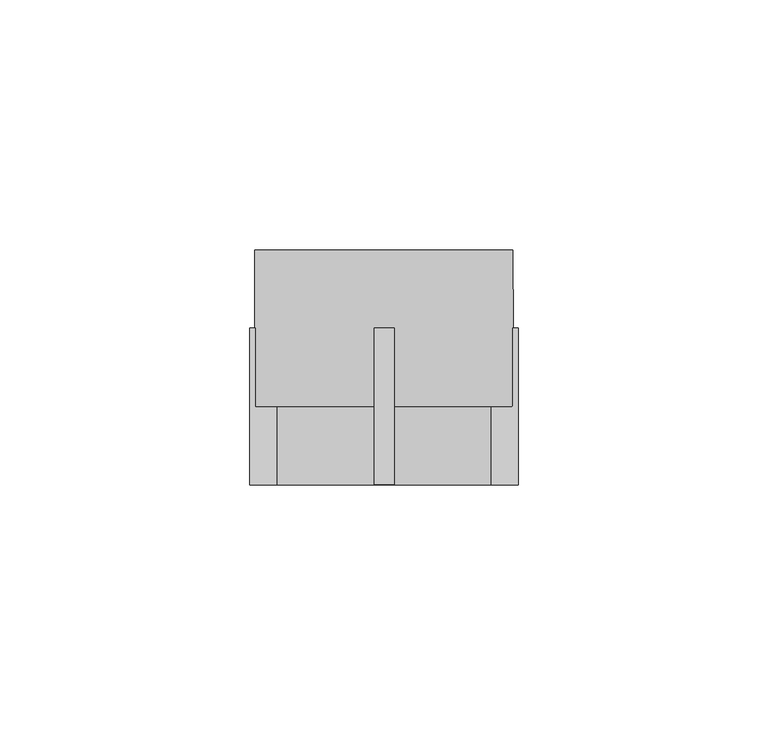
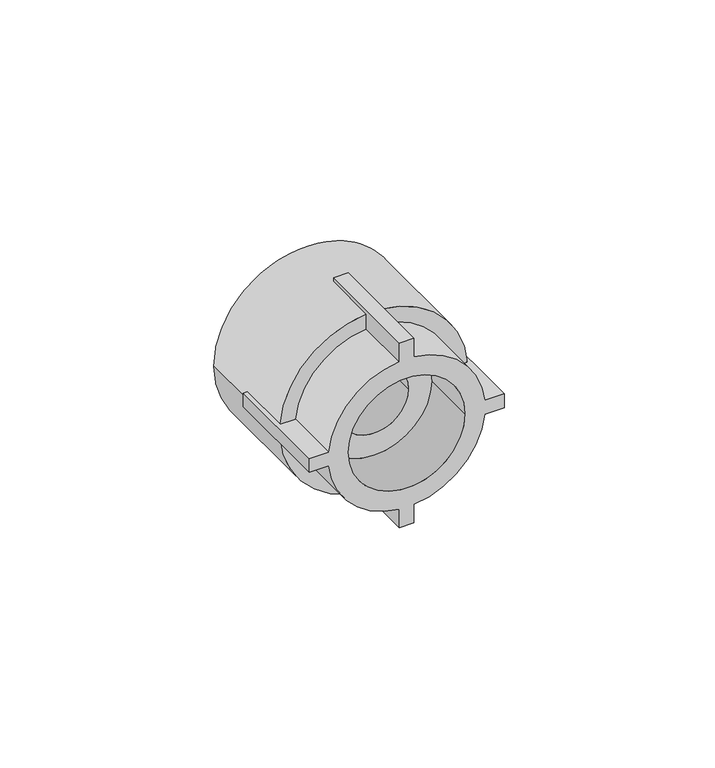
"""IFC4 building model written with IfcOpenShell, lengths in millimetres: pipe fitting geometry, EGB_VASEN_ PPR_Entronque rosca hembra WXR102 : Entronque rosca hembra WXR102."""

from ifc_helpers import new_model, si_unit, point, frame, origin, origin_2d, place, context, project, spatial, polyline, circle_curve, trimmed, segment, composite_curve, outline, extrude, source, transform, mapped, element, save
from ifc_brep_helpers import plane_surface, cylinder_surface, revolved_surface, advanced_brep


def pipe_fitting_ec8d1571(model_context):
    return source(origin(), model_context, "Body", "SolidModel", [
        advanced_brep(
        [(2.0, -15.6666667, 26.8), (-2.0, -15.6666667, 26.8), (-2.0, -15.6666667, 21.4067746), (-21.4067746, -15.6666667, 2.0), (-26.8, -15.6666667, 2.0), (-26.8, -15.6666667, -2.0), (-21.4067746, -15.6666667, -2.0), (-2.0, -15.6666667, -21.4067746), (-2.0, -15.6666667, -26.8), (2.0, -15.6666667, -26.8), (2.0, -15.6666667, -21.4067746), (21.4067746, -15.6666667, -2.0), (26.8, -15.6666667, -2.0), (26.8, -15.6666667, 2.0), (21.4067746, -15.6666667, 2.0), (2.0, -15.6666667, 21.4067746), (-16.0, -15.6666667, 0.0), (16.0, -15.6666667, 0.0), (-2.0, 15.6666667, 26.8), (2.0, 15.6666667, 26.8), (2.0, 15.6666667, 25.7223638), (-2.0, 15.6666667, 25.7223638), (2.0, 15.6666667, -26.8), (-2.0, 15.6666667, -26.8), (-2.0, 15.6666667, -25.7223638), (2.0, 15.6666667, -25.7223638), (26.8, 15.6666667, 2.0), (26.8, 15.6666667, -2.0), (25.7223638, 15.6666667, -2.0), (25.8, 15.6666667, 0.0), (25.7223638, 15.6666667, 2.0), (-26.8, 15.6666667, -2.0), (-26.8, 15.6666667, 2.0), (-25.7223638, 15.6666667, 2.0), (-25.8, 15.6666667, 0.0), (-25.7223638, 15.6666667, -2.0), (2.0, 0.0, 21.4067746), (2.0, 0.0, 25.7223638), (-2.0, 0.0, 25.7223638), (-2.0, 0.0, 21.4067746), (2.0, 0.0, -25.7223638), (2.0, 0.0, -21.4067746), (-2.0, 0.0, -21.4067746), (-2.0, 0.0, -25.7223638), (21.4067746, 0.0, -2.0), (25.7223638, 0.0, -2.0), (25.7223638, 0.0, 2.0), (21.4067746, 0.0, 2.0), (-25.7223638, 0.0, -2.0), (-21.4067746, 0.0, -2.0), (-21.4067746, 0.0, 2.0), (-25.7223638, 0.0, 2.0), (-16.0, 0.0, 0.0), (16.0, 0.0, 0.0), (-9.525, 0.0, 0.0), (9.525, 0.0, 0.0), (-25.8, 31.3333333, 0.0), (25.8, 31.3333333, 0.0), (-9.525, 31.3333333, 0.0), (9.525, 31.3333333, 0.0)],
        [
            (0, 1),
            (1, 2),
            (2, 3, circle_curve(frame((0.0, -15.6666667, 0.0), z_axis=(0.0, -1.0, 0.0), x_axis=(1.0, 0.0, 0.0)), 21.5)),
            (3, 4),
            (4, 5),
            (5, 6),
            (6, 7, circle_curve(frame((0.0, -15.6666667, 0.0), z_axis=(0.0, -1.0, 0.0), x_axis=(1.0, 0.0, 0.0)), 21.5)),
            (7, 8),
            (8, 9),
            (9, 10),
            (10, 11, circle_curve(frame((0.0, -15.6666667, 0.0), z_axis=(0.0, -1.0, 0.0), x_axis=(1.0, 0.0, 0.0)), 21.5)),
            (11, 12),
            (12, 13),
            (13, 14),
            (14, 15, circle_curve(frame((0.0, -15.6666667, 0.0), z_axis=(0.0, -1.0, 0.0), x_axis=(1.0, 0.0, 0.0)), 21.5)),
            (15, 0),
            (16, 17, circle_curve(frame((0.0, -15.6666667, 0.0), z_axis=(0.0, 1.0, 0.0), x_axis=(1.0, 0.0, 0.0)), 16.0)),
            (17, 16, circle_curve(frame((0.0, -15.6666667, 0.0), z_axis=(0.0, 1.0, 0.0), x_axis=(1.0, 0.0, 0.0)), 16.0)),
            (18, 19),
            (19, 20),
            (20, 21, circle_curve(frame((0.0, 15.6666667, 0.0), z_axis=(0.0, -1.0, 0.0), x_axis=(1.0, 0.0, 0.0)), 25.8)),
            (21, 18),
            (22, 23),
            (23, 24),
            (24, 25, circle_curve(frame((0.0, 15.6666667, 0.0), z_axis=(0.0, -1.0, 0.0), x_axis=(1.0, 0.0, 0.0)), 25.8)),
            (25, 22),
            (26, 27),
            (27, 28),
            (28, 29, circle_curve(frame((0.0, 15.6666667, 0.0), z_axis=(0.0, -1.0, 0.0), x_axis=(1.0, 0.0, 0.0)), 25.8)),
            (29, 30, circle_curve(frame((0.0, 15.6666667, 0.0), z_axis=(0.0, -1.0, 0.0), x_axis=(1.0, 0.0, 0.0)), 25.8)),
            (30, 26),
            (31, 32),
            (32, 33),
            (33, 34, circle_curve(frame((0.0, 15.6666667, 0.0), z_axis=(0.0, -1.0, 0.0), x_axis=(1.0, 0.0, 0.0)), 25.8)),
            (34, 35, circle_curve(frame((0.0, 15.6666667, 0.0), z_axis=(0.0, -1.0, 0.0), x_axis=(1.0, 0.0, 0.0)), 25.8)),
            (35, 31),
            (19, 0),
            (15, 36),
            (36, 37),
            (37, 20),
            (18, 1),
            (21, 38),
            (38, 39),
            (39, 2),
            (8, 23),
            (22, 9),
            (25, 40),
            (40, 41),
            (41, 10),
            (7, 42),
            (42, 43),
            (43, 24),
            (27, 12),
            (11, 44),
            (44, 45),
            (45, 28),
            (26, 13),
            (30, 46),
            (46, 47),
            (47, 14),
            (5, 31),
            (35, 48),
            (48, 49),
            (49, 6),
            (32, 4),
            (3, 50),
            (50, 51),
            (51, 33),
            (49, 42, circle_curve(frame((0.0, 0.0, 0.0), z_axis=(0.0, -1.0, 0.0), x_axis=(1.0, 0.0, 0.0)), 21.5)),
            (41, 44, circle_curve(frame((0.0, 0.0, 0.0), z_axis=(0.0, -1.0, 0.0), x_axis=(1.0, 0.0, 0.0)), 21.5)),
            (39, 50, circle_curve(frame((0.0, 0.0, 0.0), z_axis=(0.0, -1.0, 0.0), x_axis=(1.0, 0.0, 0.0)), 21.5)),
            (47, 36, circle_curve(frame((0.0, 0.0, 0.0), z_axis=(0.0, -1.0, 0.0), x_axis=(1.0, 0.0, 0.0)), 21.5)),
            (16, 52),
            (52, 53, circle_curve(frame((0.0, 0.0, 0.0), z_axis=(0.0, 1.0, 0.0), x_axis=(1.0, 0.0, 0.0)), 16.0)),
            (53, 17),
            (53, 52, circle_curve(frame((0.0, 0.0, 0.0), z_axis=(0.0, 1.0, 0.0), x_axis=(1.0, 0.0, 0.0)), 16.0)),
            (54, 55, circle_curve(frame((0.0, 0.0, 0.0), z_axis=(0.0, 1.0, 0.0), x_axis=(1.0, 0.0, 0.0)), 9.525)),
            (55, 54, circle_curve(frame((0.0, 0.0, 0.0), z_axis=(0.0, 1.0, 0.0), x_axis=(1.0, 0.0, 0.0)), 9.525)),
            (40, 45, circle_curve(frame((0.0, 0.0, 0.0), z_axis=(0.0, -1.0, 0.0), x_axis=(1.0, 0.0, 0.0)), 25.8)),
            (48, 43, circle_curve(frame((0.0, 0.0, 0.0), z_axis=(0.0, -1.0, 0.0), x_axis=(1.0, 0.0, 0.0)), 25.8)),
            (46, 37, circle_curve(frame((0.0, 0.0, 0.0), z_axis=(0.0, -1.0, 0.0), x_axis=(1.0, 0.0, 0.0)), 25.8)),
            (38, 51, circle_curve(frame((0.0, 0.0, 0.0), z_axis=(0.0, -1.0, 0.0), x_axis=(1.0, 0.0, 0.0)), 25.8)),
            (56, 57, circle_curve(frame((0.0, 31.3333333, 0.0), z_axis=(0.0, 1.0, 0.0), x_axis=(1.0, 0.0, 0.0)), 25.8)),
            (57, 56, circle_curve(frame((0.0, 31.3333333, 0.0), z_axis=(0.0, 1.0, 0.0), x_axis=(1.0, 0.0, 0.0)), 25.8)),
            (58, 59, circle_curve(frame((0.0, 31.3333333, 0.0), z_axis=(0.0, -1.0, 0.0), x_axis=(1.0, 0.0, 0.0)), 9.525)),
            (59, 58, circle_curve(frame((0.0, 31.3333333, 0.0), z_axis=(0.0, -1.0, 0.0), x_axis=(1.0, 0.0, 0.0)), 9.525)),
            (57, 29),
            (34, 56),
            (54, 58),
            (59, 55),
        ],
        [
            plane_surface(frame((0.0, -15.6666667, 0.0), z_axis=(0.0, -1.0, 0.0), x_axis=(0.0, 0.0, 1.0))),
            plane_surface(frame((0.0, 15.6666667, 0.0), z_axis=(0.0, 1.0, 0.0), x_axis=(0.0, 0.0, 1.0))),
            plane_surface(frame((2.0, -15.6666667, 20.5), z_axis=(1.0, 0.0, 0.0), x_axis=(0.0, 1.0, 0.0))),
            plane_surface(frame((2.0, -15.6666667, 26.8), z_axis=(0.0, 0.0, 1.0), x_axis=(0.0, 1.0, 0.0))),
            plane_surface(frame((-2.0, -15.6666667, 26.8), z_axis=(-1.0, 0.0, 0.0), x_axis=(0.0, 1.0, 0.0))),
            plane_surface(frame((-2.0, -15.6666667, -26.8), z_axis=(0.0, 0.0, -1.0), x_axis=(0.0, 1.0, 0.0))),
            plane_surface(frame((2.0, -15.6666667, -26.8), z_axis=(1.0, 0.0, 0.0), x_axis=(0.0, 1.0, 0.0))),
            plane_surface(frame((-2.0, -15.6666667, -20.5), z_axis=(-1.0, 0.0, 0.0), x_axis=(0.0, 1.0, 0.0))),
            plane_surface(frame((20.5, -15.6666667, -2.0), z_axis=(0.0, 0.0, -1.0), x_axis=(0.0, 1.0, 0.0))),
            plane_surface(frame((26.8, -15.6666667, -2.0), z_axis=(1.0, 0.0, 0.0), x_axis=(0.0, 1.0, 0.0))),
            plane_surface(frame((26.8, -15.6666667, 2.0), z_axis=(0.0, 0.0, 1.0), x_axis=(0.0, 1.0, 0.0))),
            plane_surface(frame((-26.8, -15.6666667, -2.0), z_axis=(0.0, 0.0, -1.0), x_axis=(0.0, 1.0, 0.0))),
            plane_surface(frame((-20.5, -15.6666667, 2.0), z_axis=(0.0, 0.0, 1.0), x_axis=(0.0, 1.0, 0.0))),
            plane_surface(frame((-26.8, -15.6666667, 2.0), z_axis=(-1.0, 0.0, 0.0), x_axis=(0.0, 1.0, 0.0))),
            cylinder_surface(frame((0.0, 0.0, 0.0), z_axis=(0.0, -1.0, 0.0), x_axis=(1.0, 0.0, 0.0)), 21.5),
            revolved_surface(polyline([(16.0, 0.0, 0.0), (16.0, -15.6666667, 0.0)]), (0.0, 0.0, 0.0), (0.0, 1.0, 0.0)),
            plane_surface(frame((25.8, 0.0, 0.0), z_axis=(0.0, -1.0, 0.0), x_axis=(0.0, 0.0, 1.0))),
            plane_surface(frame((25.8, 31.3333333, 0.0), z_axis=(0.0, 1.0, 0.0), x_axis=(0.0, 0.0, -1.0))),
            cylinder_surface(frame((0.0, 31.3333333, 0.0), z_axis=(0.0, -1.0, 0.0), x_axis=(1.0, 0.0, 0.0)), 25.8),
            revolved_surface(polyline([(9.525, 31.3333333, 0.0), (9.525, 0.0, 0.0)]), (0.0, 0.0, 0.0), (0.0, 1.0, 0.0)),
        ],
        [
            (0, [[1, 2, 3, 4, 5, 6, 7, 8, 9, 10, 11, 12, 13, 14, 15, 16], [17, 18]]),
            (1, [[19, 20, 21, 22]]),
            (1, [[23, 24, 25, 26]]),
            (1, [[27, 28, 29, 30, 31]]),
            (1, [[32, 33, 34, 35, 36]]),
            (2, [[37, -16, 38, 39, 40, -20]]),
            (3, [[-1, -37, -19, 41]]),
            (4, [[-41, -22, 42, 43, 44, -2]]),
            (5, [[-9, 45, -23, 46]]),
            (6, [[-46, -26, 47, 48, 49, -10]]),
            (7, [[-45, -8, 50, 51, 52, -24]]),
            (8, [[53, -12, 54, 55, 56, -28]]),
            (9, [[-13, -53, -27, 57]]),
            (10, [[-57, -31, 58, 59, 60, -14]]),
            (11, [[61, -36, 62, 63, 64, -6]]),
            (12, [[65, -4, 66, 67, 68, -33]]),
            (13, [[-5, -65, -32, -61]]),
            (14, [[-7, -64, 69, -50]]),
            (14, [[-11, -49, 70, -54]]),
            (14, [[-3, -44, 71, -66]]),
            (14, [[-15, -60, 72, -38]]),
            (15, [[-17, 73, 74, 75]]),
            (15, [[-18, -75, 76, -73]]),
            (16, [[-74, -76], [77, 78]]),
            (16, [[79, -55, -70, -48]]),
            (16, [[80, -51, -69, -63]]),
            (16, [[81, -39, -72, -59]]),
            (16, [[82, -67, -71, -43]]),
            (17, [[83, 84], [85, 86]]),
            (18, [[-84, 87, -29, -56, -79, -47, -25, -52, -80, -62, -35, 88]]),
            (18, [[-83, -88, -34, -68, -82, -42, -21, -40, -81, -58, -30, -87]]),
            (19, [[-77, 89, -86, 90]]),
            (19, [[-78, -90, -85, -89]]),
        ],
    ),
        extrude(outline(composite_curve([segment(trimmed(circle_curve(origin_2d(), 9.525), [point((0.0, -9.525))], [point((0.0, 9.525))], False, "CARTESIAN"), True, "CONTINUOUS"), segment(trimmed(circle_curve(origin_2d(), 9.525), [point((0.0, 9.525))], [point((0.0, -9.525))], False, "CARTESIAN"), True, "CONTINUOUS")], self_intersect=False)), frame((0.0, 15.6666667, 0.0), z_axis=(0.0, 1.0, 0.0), x_axis=(0.0, 0.0, 1.0)), (0.0, 0.0, 1.0), 15.6666667),
    ])


if __name__ == "__main__":
    model = new_model("IFC4")
    model_context = context("Model", 3, world=origin())
    ifc_project = project(units=[si_unit("LENGTHUNIT", "METRE", prefix="MILLI")], contexts=[model_context])
    site = spatial("IfcSite", under=ifc_project)
    building = spatial("IfcBuilding", under=site)
    placement = place(None, origin())
    pipe_fitting_shape = pipe_fitting_ec8d1571(model_context)
    element("IfcPipeFitting", 1, ObjectType="EGB_VASEN_ PPR_Entronque rosca hembra WXR102 : Entronque rosca hembra WXR102", at=placement, inside=building, context=model_context, shape_type="MappedRepresentation", body=[
        mapped(pipe_fitting_shape, transform((0.0, 0.0, 0.0), x_axis=(1.0, 0.0, 0.0), y_axis=(0.0, 1.0, 0.0), z_axis=(0.0, 0.0, 1.0))),
    ])
    save(model, "model.ifc")
